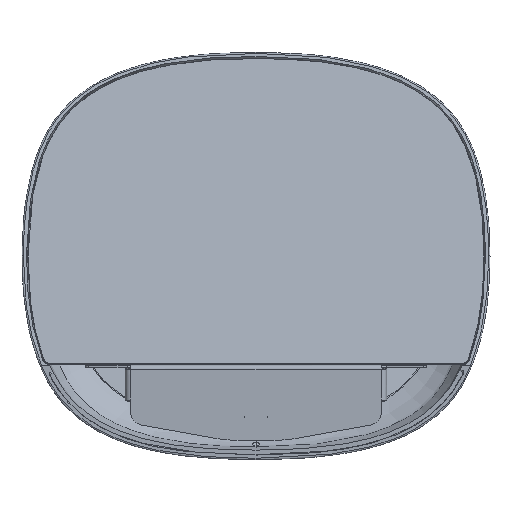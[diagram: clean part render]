
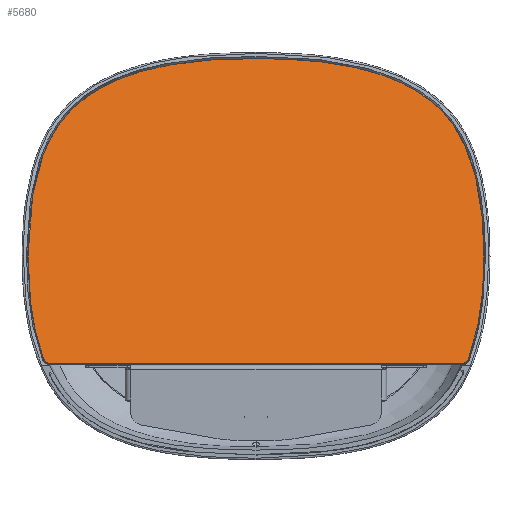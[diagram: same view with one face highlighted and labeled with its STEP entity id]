
A CAD part, left-side view. The second image highlights one B-rep face of the part: STEP entity #5680.
In plain terms, the highlighted planar face has unit normal (-0.966, 0, 0.259).
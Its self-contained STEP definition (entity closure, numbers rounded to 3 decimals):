
#5431=DIRECTION('',(0.,1.,0.));
#5432=VECTOR('',#5431,313.063);
#5433=CARTESIAN_POINT('',(1.154,-156.532,4.792));
#5434=LINE('',#5433,#5432);
#5509=CARTESIAN_POINT('',(1.154,156.532,4.792));
#5510=CARTESIAN_POINT('',(1.164,157.191,4.831));
#5511=CARTESIAN_POINT('',(1.249,158.387,5.148));
#5512=CARTESIAN_POINT('',(1.548,159.947,6.262));
#5513=CARTESIAN_POINT('',(1.808,160.577,7.233));
#5514=CARTESIAN_POINT('',(1.959,160.795,7.797));
#5516=CARTESIAN_POINT('',(22.885,172.823,85.893));
#5517=CARTESIAN_POINT('',(19.355,172.803,72.721));
#5518=CARTESIAN_POINT('',(14.047,171.721,52.911));
#5519=CARTESIAN_POINT('',(7.055,167.028,26.816));
#5520=CARTESIAN_POINT('',(3.626,163.202,14.02));
#5521=CARTESIAN_POINT('',(1.959,160.795,7.797));
#5523=CARTESIAN_POINT('',(22.885,172.823,85.893));
#5524=CARTESIAN_POINT('',(25.173,172.82,94.434));
#5525=CARTESIAN_POINT('',(29.536,172.157,110.716));
#5526=CARTESIAN_POINT('',(35.346,169.565,132.399));
#5527=CARTESIAN_POINT('',(40.693,165.096,152.354));
#5528=CARTESIAN_POINT('',(45.655,158.567,170.874));
#5529=CARTESIAN_POINT('',(50.384,148.304,188.524));
#5530=CARTESIAN_POINT('',(54.415,133.804,203.565));
#5531=CARTESIAN_POINT('',(57.716,114.975,215.884));
#5532=CARTESIAN_POINT('',(60.227,91.858,225.256));
#5533=CARTESIAN_POINT('',(61.888,65.621,231.454));
#5534=CARTESIAN_POINT('',(62.871,35.55,235.124));
#5535=CARTESIAN_POINT('',(63.036,12.343,235.739));
#5536=CARTESIAN_POINT('',(63.043,0.,235.764));
#5538=CARTESIAN_POINT('',(22.885,-172.822,85.894));
#5539=CARTESIAN_POINT('',(24.222,-172.804,90.885));
#5540=CARTESIAN_POINT('',(27.034,-172.602,101.378));
#5541=CARTESIAN_POINT('',(32.786,-171.002,122.844));
#5542=CARTESIAN_POINT('',(38.633,-167.368,144.666));
#5543=CARTESIAN_POINT('',(44.266,-160.51,165.691));
#5544=CARTESIAN_POINT('',(48.284,-153.283,180.683));
#5545=CARTESIAN_POINT('',(51.884,-143.295,194.12));
#5546=CARTESIAN_POINT('',(55.949,-126.698,209.292));
#5547=CARTESIAN_POINT('',(59.506,-101.437,222.567));
#5548=CARTESIAN_POINT('',(61.832,-68.305,231.248));
#5549=CARTESIAN_POINT('',(62.885,-34.26,235.175));
#5550=CARTESIAN_POINT('',(63.042,-11.42,235.764));
#5551=CARTESIAN_POINT('',(63.043,0.,235.764));
#5553=CARTESIAN_POINT('',(1.959,-160.796,7.796));
#5554=CARTESIAN_POINT('',(3.616,-163.189,13.982));
#5555=CARTESIAN_POINT('',(7.025,-166.992,26.703));
#5556=CARTESIAN_POINT('',(14.014,-171.711,52.787));
#5557=CARTESIAN_POINT('',(19.338,-172.819,72.659));
#5558=CARTESIAN_POINT('',(22.885,-172.822,85.894));
#5560=CARTESIAN_POINT('',(1.959,-160.796,7.796));
#5561=CARTESIAN_POINT('',(1.805,-160.574,7.223));
#5562=CARTESIAN_POINT('',(1.543,-159.932,6.244));
#5563=CARTESIAN_POINT('',(1.245,-158.349,5.131));
#5564=CARTESIAN_POINT('',(1.164,-157.174,4.83));
#5565=CARTESIAN_POINT('',(1.154,-156.532,4.792));
#5583=CARTESIAN_POINT('',(1.154,-156.532,4.792));
#5584=VERTEX_POINT('',#5583);
#5585=CARTESIAN_POINT('',(1.154,156.532,4.792));
#5586=VERTEX_POINT('',#5585);
#5588=CARTESIAN_POINT('',(1.959,-160.796,7.796));
#5589=VERTEX_POINT('',#5588);
#5591=CARTESIAN_POINT('',(22.885,-172.822,85.894));
#5592=VERTEX_POINT('',#5591);
#5594=CARTESIAN_POINT('',(63.043,0.,235.764));
#5595=VERTEX_POINT('',#5594);
#5597=CARTESIAN_POINT('',(22.885,172.823,85.893));
#5598=VERTEX_POINT('',#5597);
#5600=CARTESIAN_POINT('',(1.959,160.795,7.797));
#5601=VERTEX_POINT('',#5600);
#5661=CARTESIAN_POINT('',(1.29,-159.41,5.299));
#5662=DIRECTION('',(0.966,0.,-0.259));
#5663=DIRECTION('',(0.,1.,0.));
#5664=AXIS2_PLACEMENT_3D('',#5661,#5662,#5663);
#5665=PLANE('',#5664);
#5666=ORIENTED_EDGE('',*,*,#5611,.T.);
#5668=ORIENTED_EDGE('',*,*,#5667,.T.);
#5670=ORIENTED_EDGE('',*,*,#5669,.F.);
#5672=ORIENTED_EDGE('',*,*,#5671,.T.);
#5674=ORIENTED_EDGE('',*,*,#5673,.F.);
#5675=ORIENTED_EDGE('',*,*,#5654,.F.);
#5677=ORIENTED_EDGE('',*,*,#5676,.T.);
#5678=EDGE_LOOP('',(#5666,#5668,#5670,#5672,#5674,#5675,#5677));
#5679=FACE_OUTER_BOUND('',#5678,.F.);
#5680=ADVANCED_FACE('',(#5679),#5665,.F.);
#5515=B_SPLINE_CURVE_WITH_KNOTS('',3,(#5509,#5510,#5511,#5512,#5513,#5514),
.UNSPECIFIED.,.F.,.F.,(4,1,1,4),(0.,0.333,0.667,1.),
.UNSPECIFIED.);
#5522=B_SPLINE_CURVE_WITH_KNOTS('',3,(#5516,#5517,#5518,#5519,#5520,#5521),
.UNSPECIFIED.,.F.,.F.,(4,1,1,4),(0.,0.497,0.748,1.),
.UNSPECIFIED.);
#5537=B_SPLINE_CURVE_WITH_KNOTS('',3,(#5523,#5524,#5525,#5526,#5527,#5528,#5529,
#5530,#5531,#5532,#5533,#5534,#5535,#5536),.UNSPECIFIED.,.F.,.F.,(4,1,1,1,1,1,1,
1,1,1,1,4),(0.,0.091,0.182,0.273,
0.364,0.455,0.545,0.636,
0.727,0.818,0.909,1.),.UNSPECIFIED.);
#5552=B_SPLINE_CURVE_WITH_KNOTS('',3,(#5538,#5539,#5540,#5541,#5542,#5543,#5544,
#5545,#5546,#5547,#5548,#5549,#5550,#5551),.UNSPECIFIED.,.F.,.F.,(4,1,1,1,1,1,1,
1,1,1,1,4),(0.,0.057,0.12,0.245,
0.308,0.371,0.434,0.497,
0.623,0.748,0.874,1.),.UNSPECIFIED.);
#5559=B_SPLINE_CURVE_WITH_KNOTS('',3,(#5553,#5554,#5555,#5556,#5557,#5558),
.UNSPECIFIED.,.F.,.F.,(4,1,1,4),(0.,0.25,0.5,1.),
.UNSPECIFIED.);
#5566=B_SPLINE_CURVE_WITH_KNOTS('',3,(#5560,#5561,#5562,#5563,#5564,#5565),
.UNSPECIFIED.,.F.,.F.,(4,1,1,4),(0.,0.333,0.667,1.),
.UNSPECIFIED.);
#5611=EDGE_CURVE('',#5584,#5586,#5434,.T.);
#5654=EDGE_CURVE('',#5589,#5592,#5559,.T.);
#5667=EDGE_CURVE('',#5586,#5601,#5515,.T.);
#5669=EDGE_CURVE('',#5598,#5601,#5522,.T.);
#5671=EDGE_CURVE('',#5598,#5595,#5537,.T.);
#5673=EDGE_CURVE('',#5592,#5595,#5552,.T.);
#5676=EDGE_CURVE('',#5589,#5584,#5566,.T.);
